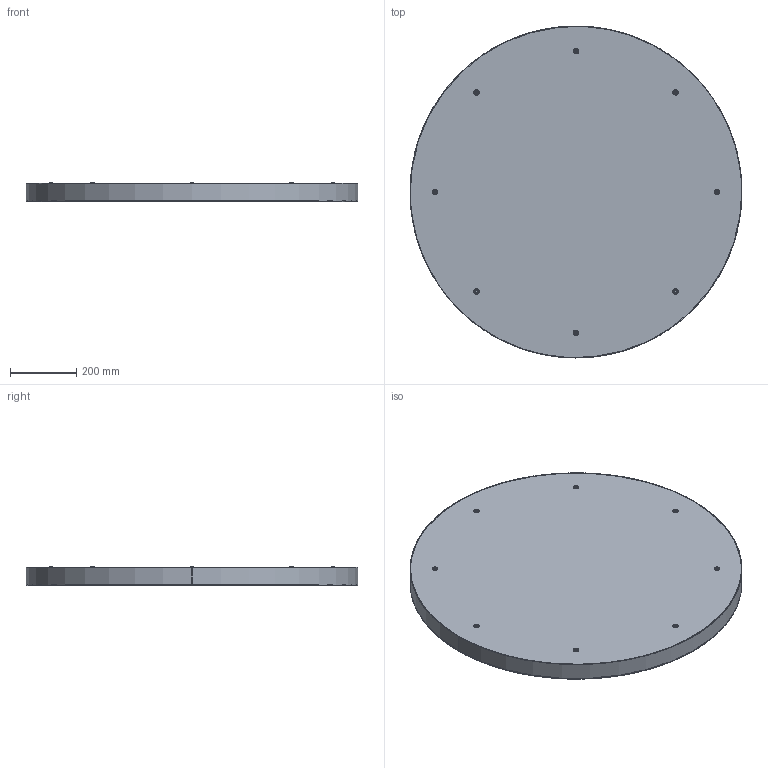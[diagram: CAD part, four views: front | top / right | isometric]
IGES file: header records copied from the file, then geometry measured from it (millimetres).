
Start section: SolidWorks IGES file using analytic representation for surfaces
Global section: file name: \\srvficheros\grupos\DISENYO\DESARROLLO DE PRODUCTO\_3D_WEB\LONDON-P3760572\LONDON-P3760572.IGS; native system: SolidWorks 2025; preprocessor: SolidWorks 2025; author: d.pons; date: 260114.114916; units: millimetre
Bounding box: 1000 x 1000 x 58 mm (x, y, z)
Surface area: 3490709 mm2 (no closed solid volume)
Topology: 0 solids, 0 shells, 146 faces, 2384 edges, 2384 vertices
Faces by surface type: bspline 90, revolution 56
